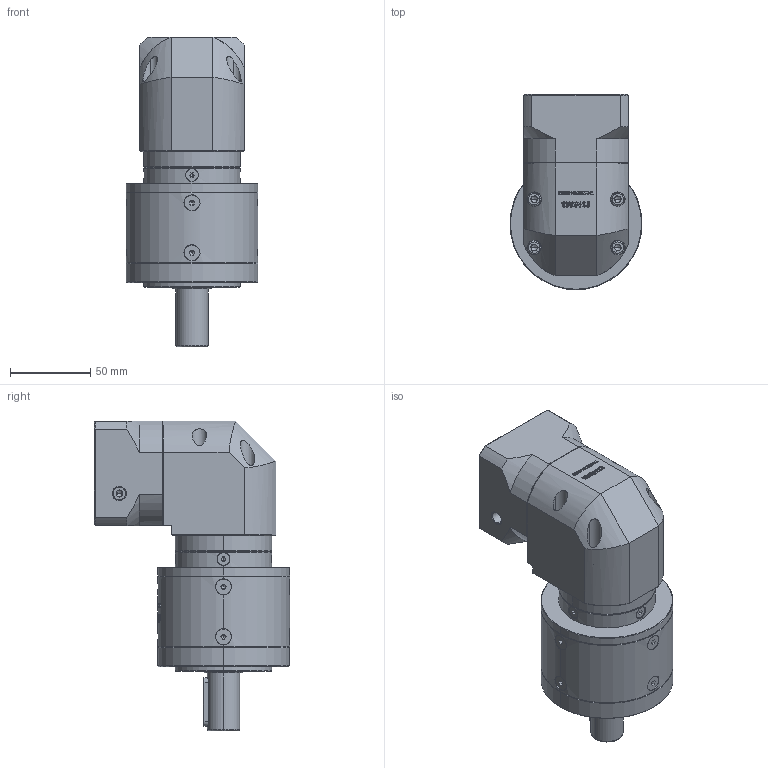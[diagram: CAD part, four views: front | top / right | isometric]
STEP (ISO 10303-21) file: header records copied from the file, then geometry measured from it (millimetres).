
FILE_DESCRIPTION (( 'STEP AP214' ), '1' );
FILE_NAME ('ZER80-D20-L2-14-60-75-M6.step', '2022-09-12T14:43:19', ( '' ), ( 'Microsoft' ), 'SwSTEP 2.0', 'SolidWorks 2016', '' );
FILE_SCHEMA (( 'AUTOMOTIVE_DESIGN' ));
Length unit declared in the file: millimetre
Products named in the file (1): ZER80-D20-L2-14-60-75-M6
Bounding box: 82 x 121.2 x 192.5 mm (x, y, z)
Volume: 773355.9 mm3; surface area: 100794.5 mm2
Topology: 17 solids, 18 shells, 3163 faces, 8461 edges, 5450 vertices
Faces by surface type: plane 1596, bspline 620, cylinder 560, cone 367, torus 20
Entity records: 176329 total; most frequent: CARTESIAN_POINT 68588, ORIENTED_EDGE 16814, DIRECTION 12619, EDGE_CURVE 8407, VERTEX_POINT 5450, LINE 5087, VECTOR 5087, AXIS2_PLACEMENT_3D 3766
